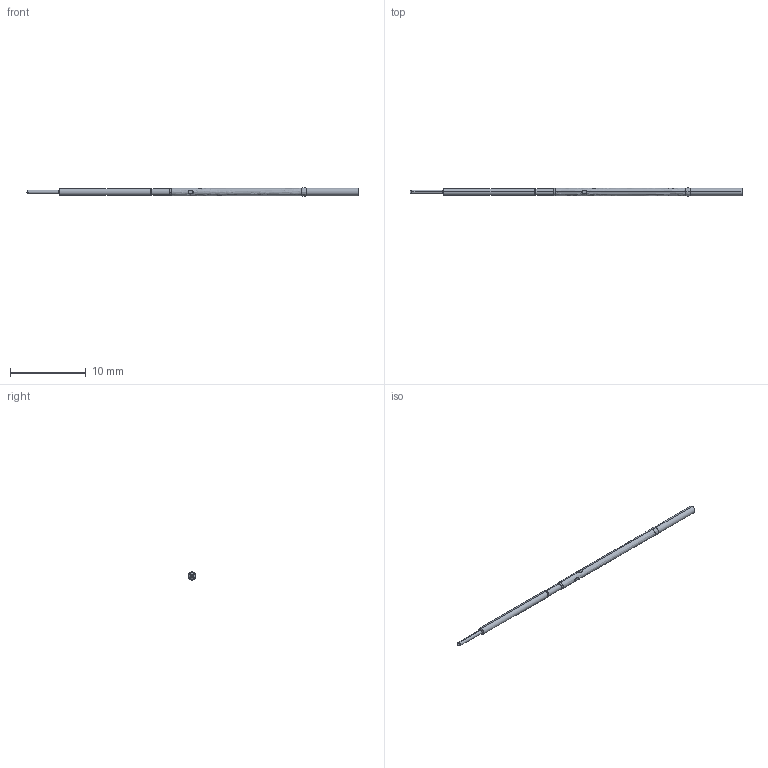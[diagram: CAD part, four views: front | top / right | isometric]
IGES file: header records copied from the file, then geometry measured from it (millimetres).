
Start section: SolidWorks IGES file using analytic representation for surfaces
Global section: file name: Z:\probe solid model mockups\Solidworks models\DER -050 IGS files\DER-050J.IGS; native system: SolidWorks 2006 by SolidWorks Corporation; preprocessor: SolidWorks 2006 by SolidWorks Corporation; author: tsakatani; date: 071218.084418; units: inch
Bounding box: 43.84 x 1.07 x 1.08 mm (x, y, z)
Surface area: 183.7 mm2 (no closed solid volume)
Topology: 0 solids, 0 shells, 38 faces, 353 edges, 348 vertices
Faces by surface type: revolution 31, bspline 7
